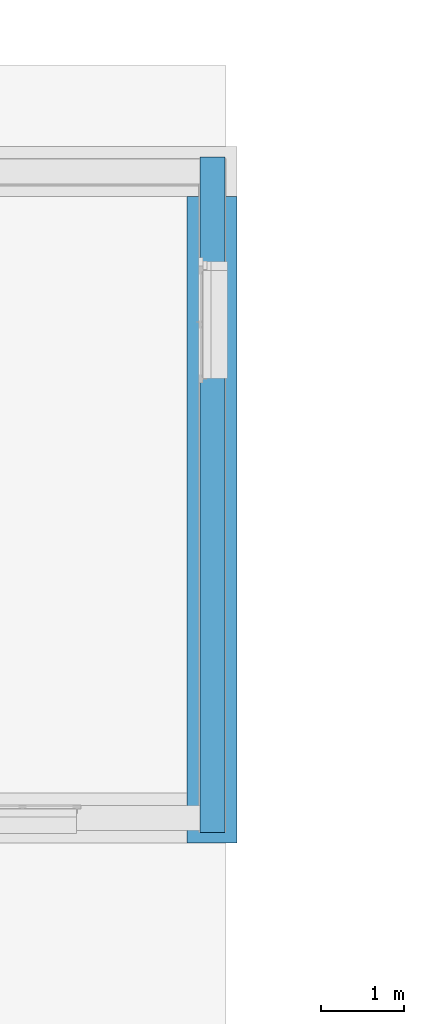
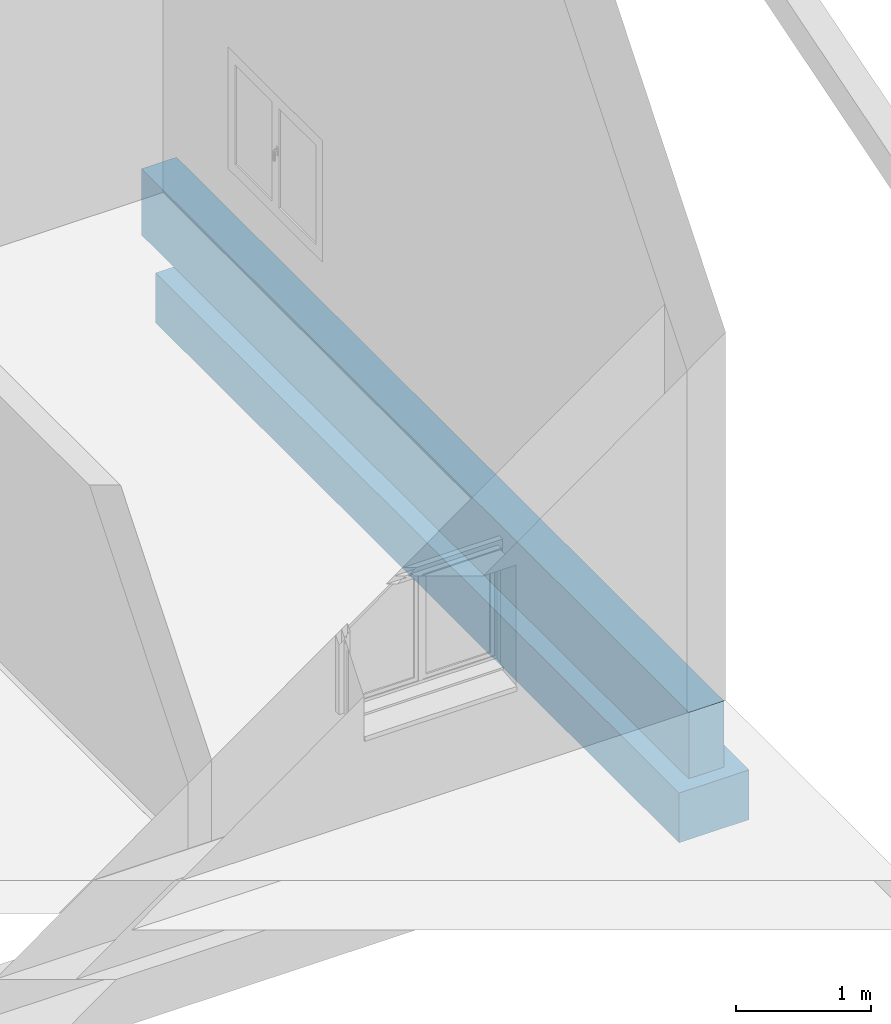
# One storey, part 7 of 20: 2 walls.
"""IFC2X3 building model written with IfcOpenShell, lengths in metres."""

from ifc_helpers import new_model, entity, si_unit, converted_unit, derived_unit, direction, frame, frame_2d, origin, place, context, subcontext, project, spatial, rectangle, extrude, material, layer, layer_set, layer_usage, type_object, element, save


model = new_model("IFC2X3")

# Units and contexts
model_context = context("Model", 3, precision=1e-05, world=origin(), true_north=direction((6.12303176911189e-17, 1.0)))
body_context = subcontext(model_context, "Body", "Model", "MODEL_VIEW")
ifc_project = project(units=[si_unit("LENGTHUNIT", "METRE"), si_unit("AREAUNIT", "SQUARE_METRE"), si_unit("VOLUMEUNIT", "CUBIC_METRE"), converted_unit("PLANEANGLEUNIT", "DEGREE", entity("IfcRatioMeasure", 0.0174532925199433), si_unit("PLANEANGLEUNIT", "RADIAN"), dimensions=[0, 0, 0, 0, 0, 0, 0]), si_unit("MASSUNIT", "GRAM", prefix="KILO"), derived_unit("MASSDENSITYUNIT", [(si_unit("MASSUNIT", "GRAM", prefix="KILO"), 1), (si_unit("LENGTHUNIT", "METRE"), -3)]), derived_unit("MOMENTOFINERTIAUNIT", [(si_unit("LENGTHUNIT", "METRE"), 4)]), si_unit("TIMEUNIT", "SECOND"), si_unit("FREQUENCYUNIT", "HERTZ"), si_unit("THERMODYNAMICTEMPERATUREUNIT", "DEGREE_CELSIUS"), derived_unit("THERMALTRANSMITTANCEUNIT", [(si_unit("MASSUNIT", "GRAM", prefix="KILO"), 1), (si_unit("THERMODYNAMICTEMPERATUREUNIT", "KELVIN"), -1), (si_unit("TIMEUNIT", "SECOND"), -3)]), derived_unit("VOLUMETRICFLOWRATEUNIT", [(si_unit("LENGTHUNIT", "METRE"), 3), (si_unit("TIMEUNIT", "SECOND"), -1)]), si_unit("ELECTRICCURRENTUNIT", "AMPERE"), si_unit("ELECTRICVOLTAGEUNIT", "VOLT"), si_unit("POWERUNIT", "WATT"), si_unit("FORCEUNIT", "NEWTON", prefix="KILO"), si_unit("ILLUMINANCEUNIT", "LUX"), si_unit("LUMINOUSFLUXUNIT", "LUMEN"), si_unit("LUMINOUSINTENSITYUNIT", "CANDELA"), derived_unit("USERDEFINED", [(si_unit("MASSUNIT", "GRAM", prefix="KILO"), -1), (si_unit("LENGTHUNIT", "METRE"), -2), (si_unit("TIMEUNIT", "SECOND"), 3), (si_unit("LUMINOUSFLUXUNIT", "LUMEN"), 1)]), derived_unit("LINEARVELOCITYUNIT", [(si_unit("LENGTHUNIT", "METRE"), 1), (si_unit("TIMEUNIT", "SECOND"), -1)]), si_unit("PRESSUREUNIT", "PASCAL"), derived_unit("USERDEFINED", [(si_unit("LENGTHUNIT", "METRE"), -2), (si_unit("MASSUNIT", "GRAM", prefix="KILO"), 1), (si_unit("TIMEUNIT", "SECOND"), -2)]), derived_unit("LINEARFORCEUNIT", [(si_unit("MASSUNIT", "GRAM", prefix="KILO"), 1), (si_unit("LENGTHUNIT", "METRE"), 1), (si_unit("TIMEUNIT", "SECOND"), -2), (si_unit("LENGTHUNIT", "METRE"), -1)]), derived_unit("PLANARFORCEUNIT", [(si_unit("MASSUNIT", "GRAM", prefix="KILO"), 1), (si_unit("LENGTHUNIT", "METRE"), 1), (si_unit("TIMEUNIT", "SECOND"), -2), (si_unit("LENGTHUNIT", "METRE"), -2)])], contexts=[model_context])

# Site, building, storey
site_placement = place(None, origin())
site = spatial("IfcSite", under=ifc_project, at=site_placement, Name="Surface", CompositionType="ELEMENT")
building_placement = place(site_placement, origin())
building = spatial("IfcBuilding", under=site, at=building_placement, CompositionType="ELEMENT")
storey_placement = place(building_placement, origin())
storey = spatial("IfcBuildingStorey", under=building, at=storey_placement, Name="Niveau rdc", CompositionType="ELEMENT", Elevation=-1.94916083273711e-14)

# Walls
ifc_material = material(Name="Maçonnerie - Voile BA")
ifc_layer_1 = layer(ifc_material, 0.3)
ifc_layer_set_1 = layer_set([ifc_layer_1], Name="Mur de base:Ext. Voile 30")
ifc_layer_usage_1 = layer_usage(ifc_layer_set_1, "AXIS2", "NEGATIVE", 0.15)
wall_type_1 = type_object("IfcWallType", Name="Mur de base:Ext. Voile 30", PredefinedType="STANDARD", material=ifc_layer_set_1)
wall_1_placement = place(storey_placement, frame((12.6193960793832, 7.35425810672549, -0.6), z_axis=(0.0, 0.0, 1.0), x_axis=(0.0, -1.0, 0.0)))
element("IfcWallStandardCase", 1, at=wall_1_placement, inside=storey, type_object=wall_type_1, material=ifc_layer_usage_1, Name="Mur de base:Ext. Voile 30", ObjectType="Mur de base:Ext. Voile 30", context=body_context, shape_type="SweptSolid", body=[
    extrude(rectangle(XDim=8.11, YDim=0.300000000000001, at=frame_2d((4.055, -3.60822483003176e-16), x_axis=(-1.0, 0.0))), origin(), (0.0, 0.0, 1.0), 0.6),
])
ifc_layer_2 = layer(ifc_material, 0.6)
ifc_layer_set_2 = layer_set([ifc_layer_2], Name="Mur de base:fondations 60*45")
ifc_layer_usage_2 = layer_usage(ifc_layer_set_2, "AXIS2", "NEGATIVE", 0.3)
wall_type_2 = type_object("IfcWallType", Name="Mur de base:fondations 60*45", PredefinedType="STANDARD", material=ifc_layer_set_2)
wall_2_placement = place(storey_placement, frame((12.6143960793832, 6.87925810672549, -1.05), z_axis=(0.0, 0.0, 1.0), x_axis=(0.0, -1.0, 0.0)))
element("IfcWallStandardCase", 2, at=wall_2_placement, inside=storey, type_object=wall_type_2, material=ifc_layer_usage_2, Name="Mur de base:fondations 60*45", ObjectType="Mur de base:fondations 60*45", context=body_context, shape_type="SweptSolid", body=[
    extrude(rectangle(XDim=7.76, YDim=0.599999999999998, at=frame_2d((3.88, 0.0), x_axis=(-1.0, 0.0))), origin(), (0.0, 0.0, 1.0), 0.45),
])

save(model, "model.ifc")
